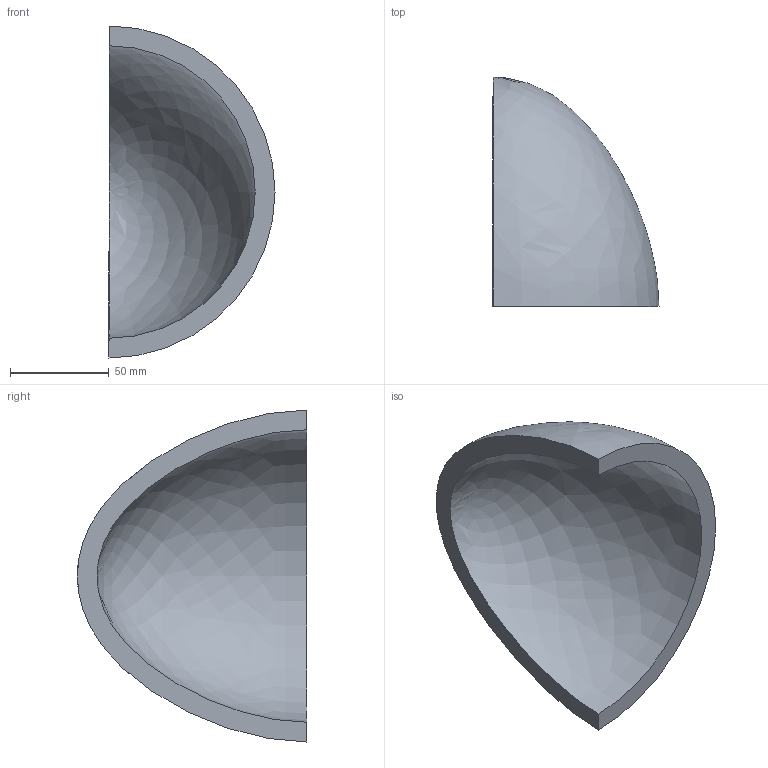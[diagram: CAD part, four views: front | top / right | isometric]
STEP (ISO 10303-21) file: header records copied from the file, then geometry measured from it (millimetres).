
FILE_DESCRIPTION(('CATIA V5 STEP Exchange'),'2;1');
FILE_NAME('C:\_Andres\UNIVERSIDAD\IQS\ASIGNATURAS\DAO\EXF\EXF-16172c\2inicio\Icart_Martori_Ej10_v16.stp','2017-03-05T22:31:11+00:00',('none'),('none'),'CATIA Version 5-6 Release 2014 SP1 HF18','CATIA V5 STEP AP203','none');
FILE_SCHEMA(('CONFIG_CONTROL_DESIGN'));
Length unit declared in the file: millimetre
Products named in the file (1): Icart_Martori_Ej10_v16
Bounding box: 84 x 116 x 168 mm (x, y, z)
Volume: 241167.3 mm3; surface area: 53780.8 mm2
Topology: 1 solids, 1 shells, 4 faces, 10 edges, 6 vertices
Faces by surface type: revolution 2, plane 2
Entity records: 239 total; most frequent: CARTESIAN_POINT 117, ORIENTED_EDGE 16, DIRECTION 10, EDGE_CURVE 8, B_SPLINE_CURVE_WITH_KNOTS 6, VERTEX_POINT 6, AXIS2_PLACEMENT_3D 5, ADVANCED_FACE 4
